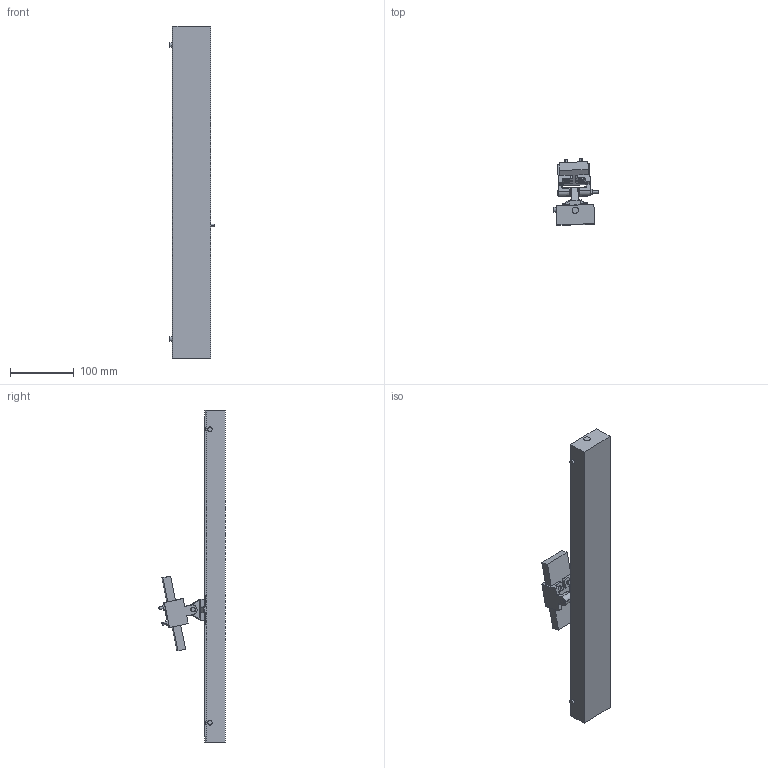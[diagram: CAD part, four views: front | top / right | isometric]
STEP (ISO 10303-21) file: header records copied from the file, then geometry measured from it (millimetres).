
FILE_DESCRIPTION (( 'STEP AP203' ), '1' );
FILE_NAME ('Assemblage_final_2_liaisons_pivot.STEP', '2020-03-27T11:04:25', ( '' ), ( '' ), 'SwSTEP 2.0', 'SolidWorks 2020', '' );
FILE_SCHEMA (( 'CONFIG_CONTROL_DESIGN' ));
Length unit declared in the file: millimetre
Products named in the file (19): vis_2; Assemblage_fix_masse; axe; fix1_masse; plaque; douille; vis4; douille_top; Assemblage_final_2_liaisons_pivot; insert; fix_masse; vis3; roue_entrainement; ecrou; Assemblage_liaison_pivot_sur_douille; vis; masse_500g; douille_back; Assemblage_plaque
Assembly tree (36 placements, depth 3):
  Assemblage_final_2_liaisons_pivot
    axe
    Assemblage_liaison_pivot_sur_douille
      douille_back
      douille
      douille_top
      ecrou  x4
      vis  x4
      insert
    Assemblage_fix_masse
      masse_500g
      fix_masse
      fix1_masse
      vis_2  x4
      ecrou  x5
      vis3
    Assemblage_plaque
      plaque
      roue_entrainement  x2
      ecrou  x2
      vis4  x2
Bounding box: 69.62 x 104.42 x 520 mm (x, y, z)
Volume: 322315.2 mm3; surface area: 198435.4 mm2
Topology: 33 solids, 33 shells, 787 faces, 1900 edges, 1188 vertices
Faces by surface type: cylinder 360, plane 323, torus 68, bspline 28, sphere 8
Entity records: 22909 total; most frequent: CARTESIAN_POINT 5038, DIRECTION 3422, ORIENTED_EDGE 3096, EDGE_CURVE 1548, AXIS2_PLACEMENT_3D 1308, VERTEX_POINT 964, VECTOR 806, LINE 806
